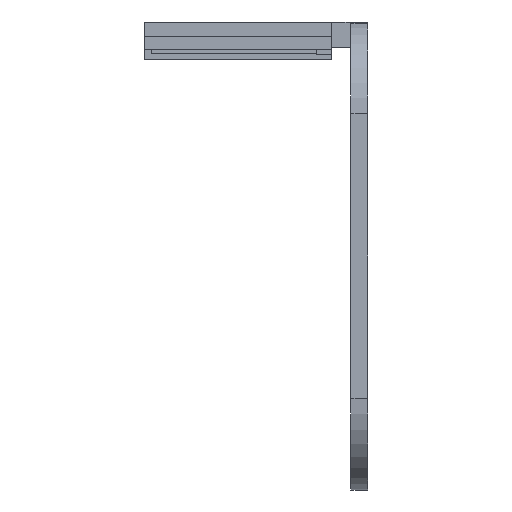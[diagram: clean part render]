
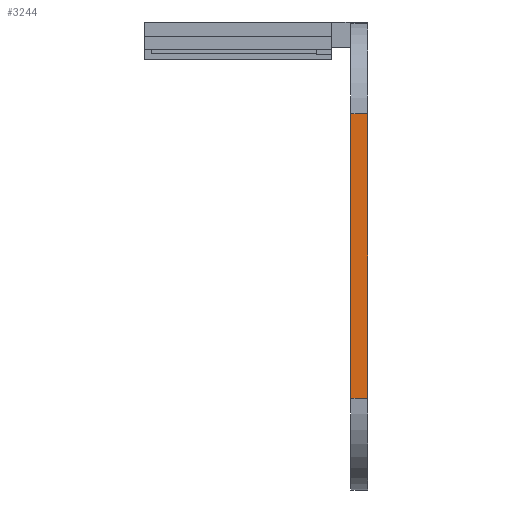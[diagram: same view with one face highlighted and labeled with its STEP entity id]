
A CAD part, left-side view. The second image highlights one B-rep face of the part: STEP entity #3244.
In plain terms, the highlighted planar face has unit normal (-1, 0, 0).
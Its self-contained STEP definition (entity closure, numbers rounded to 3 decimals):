
#44 = PLANE('',#45);
#45 = AXIS2_PLACEMENT_3D('',#46,#47,#48);
#46 = CARTESIAN_POINT('',(0.,-15.1,62.));
#47 = DIRECTION('',(0.,-1.,0.));
#48 = DIRECTION('',(1.,0.,0.));
#72 = CYLINDRICAL_SURFACE('',#73,11.);
#73 = AXIS2_PLACEMENT_3D('',#74,#75,#76);
#74 = CARTESIAN_POINT('',(-17.,-15.1,45.));
#75 = DIRECTION('',(0.,-1.,0.));
#76 = DIRECTION('',(0.,0.,-1.));
#100 = PLANE('',#101);
#101 = AXIS2_PLACEMENT_3D('',#102,#103,#104);
#102 = CARTESIAN_POINT('',(0.,-17.1,62.));
#103 = DIRECTION('',(0.,-1.,0.));
#104 = DIRECTION('',(1.,0.,0.));
#142 = VERTEX_POINT('',#143);
#143 = CARTESIAN_POINT('',(-28.,-15.1,45.));
#554 = VERTEX_POINT('',#555);
#555 = CARTESIAN_POINT('',(-28.,-15.1,79.));
#570 = CYLINDRICAL_SURFACE('',#571,11.);
#571 = AXIS2_PLACEMENT_3D('',#572,#573,#574);
#572 = CARTESIAN_POINT('',(-17.,-15.1,79.));
#573 = DIRECTION('',(0.,-1.,0.));
#574 = DIRECTION('',(0.,0.,1.));
#582 = EDGE_CURVE('',#554,#142,#583,.T.);
#583 = SURFACE_CURVE('',#584,(#588,#595),.PCURVE_S1.);
#584 = LINE('',#585,#586);
#585 = CARTESIAN_POINT('',(-28.,-15.1,90.));
#586 = VECTOR('',#587,1.);
#587 = DIRECTION('',(0.,0.,-1.));
#588 = PCURVE('',#44,#589);
#589 = DEFINITIONAL_REPRESENTATION('',(#590),#594);
#590 = LINE('',#591,#592);
#591 = CARTESIAN_POINT('',(-28.,28.));
#592 = VECTOR('',#593,1.);
#593 = DIRECTION('',(0.,-1.));
#594 = ( GEOMETRIC_REPRESENTATION_CONTEXT(2) 
PARAMETRIC_REPRESENTATION_CONTEXT() REPRESENTATION_CONTEXT('2D SPACE',''
  ) );
#595 = PCURVE('',#596,#601);
#596 = PLANE('',#597);
#597 = AXIS2_PLACEMENT_3D('',#598,#599,#600);
#598 = CARTESIAN_POINT('',(-28.,-15.1,90.));
#599 = DIRECTION('',(1.,0.,0.));
#600 = DIRECTION('',(0.,0.,-1.));
#601 = DEFINITIONAL_REPRESENTATION('',(#602),#606);
#602 = LINE('',#603,#604);
#603 = CARTESIAN_POINT('',(0.,0.));
#604 = VECTOR('',#605,1.);
#605 = DIRECTION('',(1.,0.));
#606 = ( GEOMETRIC_REPRESENTATION_CONTEXT(2) 
PARAMETRIC_REPRESENTATION_CONTEXT() REPRESENTATION_CONTEXT('2D SPACE',''
  ) );
#1813 = VERTEX_POINT('',#1814);
#1814 = CARTESIAN_POINT('',(-28.,-17.1,45.));
#1840 = EDGE_CURVE('',#142,#1813,#1841,.T.);
#1841 = SURFACE_CURVE('',#1842,(#1846,#1853),.PCURVE_S1.);
#1842 = LINE('',#1843,#1844);
#1843 = CARTESIAN_POINT('',(-28.,-15.1,45.));
#1844 = VECTOR('',#1845,1.);
#1845 = DIRECTION('',(0.,-1.,0.));
#1846 = PCURVE('',#72,#1847);
#1847 = DEFINITIONAL_REPRESENTATION('',(#1848),#1852);
#1848 = LINE('',#1849,#1850);
#1849 = CARTESIAN_POINT('',(4.712,0.));
#1850 = VECTOR('',#1851,1.);
#1851 = DIRECTION('',(-0.,1.));
#1852 = ( GEOMETRIC_REPRESENTATION_CONTEXT(2) 
PARAMETRIC_REPRESENTATION_CONTEXT() REPRESENTATION_CONTEXT('2D SPACE',''
  ) );
#1853 = PCURVE('',#596,#1854);
#1854 = DEFINITIONAL_REPRESENTATION('',(#1855),#1859);
#1855 = LINE('',#1856,#1857);
#1856 = CARTESIAN_POINT('',(45.,0.));
#1857 = VECTOR('',#1858,1.);
#1858 = DIRECTION('',(0.,-1.));
#1859 = ( GEOMETRIC_REPRESENTATION_CONTEXT(2) 
PARAMETRIC_REPRESENTATION_CONTEXT() REPRESENTATION_CONTEXT('2D SPACE',''
  ) );
#2105 = VERTEX_POINT('',#2106);
#2106 = CARTESIAN_POINT('',(-28.,-17.1,79.));
#2128 = EDGE_CURVE('',#2105,#1813,#2129,.T.);
#2129 = SURFACE_CURVE('',#2130,(#2134,#2141),.PCURVE_S1.);
#2130 = LINE('',#2131,#2132);
#2131 = CARTESIAN_POINT('',(-28.,-17.1,90.));
#2132 = VECTOR('',#2133,1.);
#2133 = DIRECTION('',(0.,0.,-1.));
#2134 = PCURVE('',#100,#2135);
#2135 = DEFINITIONAL_REPRESENTATION('',(#2136),#2140);
#2136 = LINE('',#2137,#2138);
#2137 = CARTESIAN_POINT('',(-28.,28.));
#2138 = VECTOR('',#2139,1.);
#2139 = DIRECTION('',(0.,-1.));
#2140 = ( GEOMETRIC_REPRESENTATION_CONTEXT(2) 
PARAMETRIC_REPRESENTATION_CONTEXT() REPRESENTATION_CONTEXT('2D SPACE',''
  ) );
#2141 = PCURVE('',#596,#2142);
#2142 = DEFINITIONAL_REPRESENTATION('',(#2143),#2147);
#2143 = LINE('',#2144,#2145);
#2144 = CARTESIAN_POINT('',(0.,-2.));
#2145 = VECTOR('',#2146,1.);
#2146 = DIRECTION('',(1.,0.));
#2147 = ( GEOMETRIC_REPRESENTATION_CONTEXT(2) 
PARAMETRIC_REPRESENTATION_CONTEXT() REPRESENTATION_CONTEXT('2D SPACE',''
  ) );
#3244 = ADVANCED_FACE('',(#3245),#596,.F.);
#3245 = FACE_BOUND('',#3246,.F.);
#3246 = EDGE_LOOP('',(#3247,#3248,#3269,#3270));
#3247 = ORIENTED_EDGE('',*,*,#582,.F.);
#3248 = ORIENTED_EDGE('',*,*,#3249,.T.);
#3249 = EDGE_CURVE('',#554,#2105,#3250,.T.);
#3250 = SURFACE_CURVE('',#3251,(#3255,#3262),.PCURVE_S1.);
#3251 = LINE('',#3252,#3253);
#3252 = CARTESIAN_POINT('',(-28.,-15.1,79.));
#3253 = VECTOR('',#3254,1.);
#3254 = DIRECTION('',(0.,-1.,0.));
#3255 = PCURVE('',#596,#3256);
#3256 = DEFINITIONAL_REPRESENTATION('',(#3257),#3261);
#3257 = LINE('',#3258,#3259);
#3258 = CARTESIAN_POINT('',(11.,0.));
#3259 = VECTOR('',#3260,1.);
#3260 = DIRECTION('',(0.,-1.));
#3261 = ( GEOMETRIC_REPRESENTATION_CONTEXT(2) 
PARAMETRIC_REPRESENTATION_CONTEXT() REPRESENTATION_CONTEXT('2D SPACE',''
  ) );
#3262 = PCURVE('',#570,#3263);
#3263 = DEFINITIONAL_REPRESENTATION('',(#3264),#3268);
#3264 = LINE('',#3265,#3266);
#3265 = CARTESIAN_POINT('',(1.571,0.));
#3266 = VECTOR('',#3267,1.);
#3267 = DIRECTION('',(0.,1.));
#3268 = ( GEOMETRIC_REPRESENTATION_CONTEXT(2) 
PARAMETRIC_REPRESENTATION_CONTEXT() REPRESENTATION_CONTEXT('2D SPACE',''
  ) );
#3269 = ORIENTED_EDGE('',*,*,#2128,.T.);
#3270 = ORIENTED_EDGE('',*,*,#1840,.F.);
